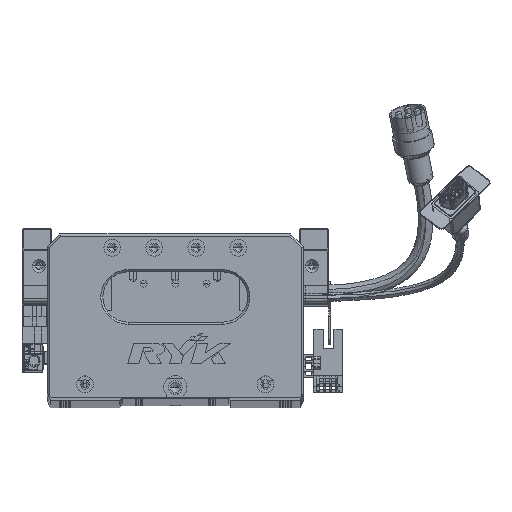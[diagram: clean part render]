
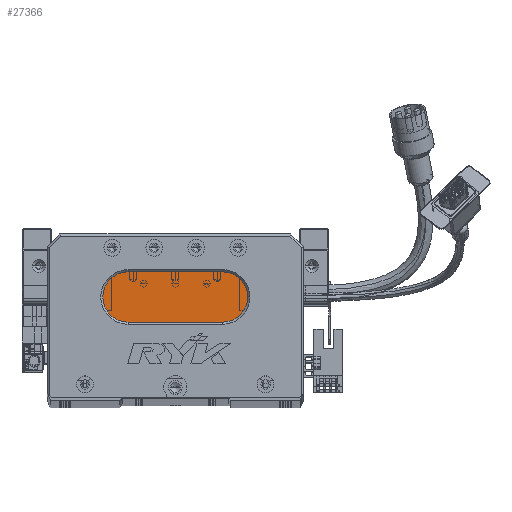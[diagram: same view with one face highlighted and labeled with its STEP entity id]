
A CAD part, top view. The second image highlights one B-rep face of the part: STEP entity #27366.
In plain terms, the highlighted planar face has unit normal (0, 0, 1) as drawn and (0, 0, -1) by its records, which use the part's own axes.
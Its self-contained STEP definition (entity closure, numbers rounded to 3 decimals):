
#584 = DIRECTION ( 'NONE',  ( -1., 0., 0. ) ) ;
#5696 = EDGE_CURVE ( 'NONE', #43416, #38562, #73223, .T. ) ;
#6434 = VERTEX_POINT ( 'NONE', #73738 ) ;
#7868 = EDGE_LOOP ( 'NONE', ( #106376, #26401, #13464, #108085, #62172 ) ) ;
#9580 = DIRECTION ( 'NONE',  ( -1., 0., 0. ) ) ;
#13464 = ORIENTED_EDGE ( 'NONE', *, *, #35613, .T. ) ;
#13986 = CARTESIAN_POINT ( 'NONE',  ( 83.5, 60., 13. ) ) ;
#14570 = EDGE_CURVE ( 'NONE', #68674, #83925, #108749, .T. ) ;
#18780 = AXIS2_PLACEMENT_3D ( 'NONE', #87192, #61599, #9580 ) ;
#19597 = CARTESIAN_POINT ( 'NONE',  ( 26.5, 48., 13. ) ) ;
#22378 = AXIS2_PLACEMENT_3D ( 'NONE', #79217, #35342, #584 ) ;
#26401 = ORIENTED_EDGE ( 'NONE', *, *, #93616, .T. ) ;
#27366 = ADVANCED_FACE ( 'NONE', ( #47631 ), #79126, .T. ) ;
#28881 = CIRCLE ( 'NONE', #86758, 12. ) ;
#30517 = LINE ( 'NONE', #95990, #100213 ) ;
#31668 = DIRECTION ( 'NONE',  ( 0., 0., -1. ) ) ;
#35342 = DIRECTION ( 'NONE',  ( 0., 0., -1. ) ) ;
#35613 = EDGE_CURVE ( 'NONE', #6434, #68674, #28881, .T. ) ;
#37015 = CARTESIAN_POINT ( 'NONE',  ( 83.5, 36., 13. ) ) ;
#38562 = VERTEX_POINT ( 'NONE', #37015 ) ;
#39349 = DIRECTION ( 'NONE',  ( -1., 0., 0. ) ) ;
#41784 = CARTESIAN_POINT ( 'NONE',  ( 38.5, 48., 13. ) ) ;
#43416 = VERTEX_POINT ( 'NONE', #48945 ) ;
#47631 = FACE_OUTER_BOUND ( 'NONE', #7868, .T. ) ;
#48945 = CARTESIAN_POINT ( 'NONE',  ( 83.5, 60., 13. ) ) ;
#50555 = LINE ( 'NONE', #13986, #98294 ) ;
#57020 = EDGE_CURVE ( 'NONE', #83925, #43416, #50555, .T. ) ;
#57288 = CARTESIAN_POINT ( 'NONE',  ( 38.5, 48., 13. ) ) ;
#60630 = AXIS2_PLACEMENT_3D ( 'NONE', #57288, #31668, #39349 ) ;
#61599 = DIRECTION ( 'NONE',  ( 0., 0., -1. ) ) ;
#62172 = ORIENTED_EDGE ( 'NONE', *, *, #57020, .T. ) ;
#68674 = VERTEX_POINT ( 'NONE', #19597 ) ;
#73223 = CIRCLE ( 'NONE', #22378, 12. ) ;
#73738 = CARTESIAN_POINT ( 'NONE',  ( 38.5, 36., 13. ) ) ;
#79126 = PLANE ( 'NONE',  #18780 ) ;
#79217 = CARTESIAN_POINT ( 'NONE',  ( 83.5, 48., 13. ) ) ;
#83925 = VERTEX_POINT ( 'NONE', #99348 ) ;
#86758 = AXIS2_PLACEMENT_3D ( 'NONE', #41784, #111248, #92976 ) ;
#87192 = CARTESIAN_POINT ( 'NONE',  ( 83.5, 48., 13. ) ) ;
#92976 = DIRECTION ( 'NONE',  ( -1., 0., 0. ) ) ;
#93616 = EDGE_CURVE ( 'NONE', #38562, #6434, #30517, .T. ) ;
#95990 = CARTESIAN_POINT ( 'NONE',  ( 83.5, 36., 13. ) ) ;
#98294 = VECTOR ( 'NONE', #100347, 1000. ) ;
#99348 = CARTESIAN_POINT ( 'NONE',  ( 38.5, 60., 13. ) ) ;
#100213 = VECTOR ( 'NONE', #105135, 1000. ) ;
#100347 = DIRECTION ( 'NONE',  ( 1., 0., 0. ) ) ;
#105135 = DIRECTION ( 'NONE',  ( -1., 0., 0. ) ) ;
#106376 = ORIENTED_EDGE ( 'NONE', *, *, #5696, .T. ) ;
#108085 = ORIENTED_EDGE ( 'NONE', *, *, #14570, .T. ) ;
#108749 = CIRCLE ( 'NONE', #60630, 12. ) ;
#111248 = DIRECTION ( 'NONE',  ( 0., 0., -1. ) ) ;
